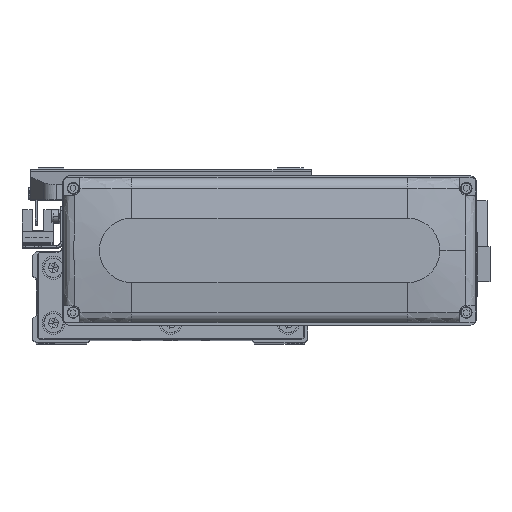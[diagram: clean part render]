
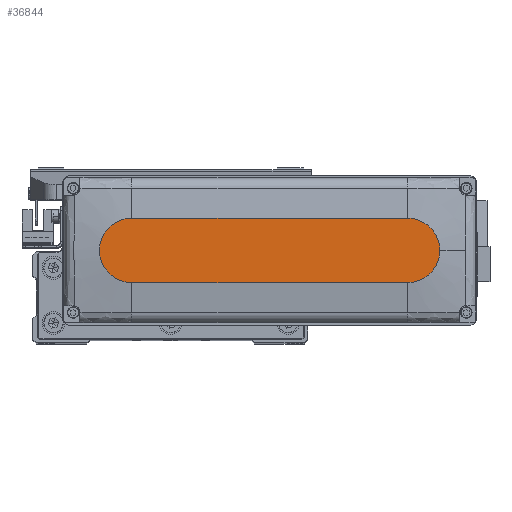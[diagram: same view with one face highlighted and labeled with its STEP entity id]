
A CAD part, top view. The second image highlights one B-rep face of the part: STEP entity #36844.
In plain terms, the highlighted planar face has unit normal (0, 0, 1).
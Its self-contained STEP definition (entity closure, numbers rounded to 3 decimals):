
#277 = CARTESIAN_POINT ( 'NONE',  ( 60., 14., 28.5 ) ) ;
#2139 = EDGE_CURVE ( 'NONE', #31493, #35377, #46733, .T. ) ;
#2382 = DIRECTION ( 'NONE',  ( 1., 0., 0. ) ) ;
#3710 = CARTESIAN_POINT ( 'NONE',  ( -60., 14., 28.5 ) ) ;
#4881 = DIRECTION ( 'NONE',  ( 1., 0., 0. ) ) ;
#6223 = PLANE ( 'NONE',  #38604 ) ;
#6719 = DIRECTION ( 'NONE',  ( 1., 0., 0. ) ) ;
#7327 = CIRCLE ( 'NONE', #48693, 14. ) ;
#7791 = ORIENTED_EDGE ( 'NONE', *, *, #25002, .T. ) ;
#8849 = DIRECTION ( 'NONE',  ( -1., 0., 0. ) ) ;
#10587 = CARTESIAN_POINT ( 'NONE',  ( 60., 0., 28.5 ) ) ;
#11674 = ORIENTED_EDGE ( 'NONE', *, *, #2139, .T. ) ;
#12229 = CARTESIAN_POINT ( 'NONE',  ( -60., 0., 28.5 ) ) ;
#14474 = VERTEX_POINT ( 'NONE', #277 ) ;
#15209 = ORIENTED_EDGE ( 'NONE', *, *, #19217, .T. ) ;
#16484 = EDGE_LOOP ( 'NONE', ( #32681, #21231, #11674, #7791, #15209 ) ) ;
#18005 = LINE ( 'NONE', #33193, #22291 ) ;
#19217 = EDGE_CURVE ( 'NONE', #42162, #14474, #23709, .T. ) ;
#20855 = AXIS2_PLACEMENT_3D ( 'NONE', #10587, #21579, #2382 ) ;
#21231 = ORIENTED_EDGE ( 'NONE', *, *, #23906, .T. ) ;
#21511 = VECTOR ( 'NONE', #4881, 1000. ) ;
#21579 = DIRECTION ( 'NONE',  ( 0., 0., 1. ) ) ;
#22291 = VECTOR ( 'NONE', #8849, 1000. ) ;
#23709 = CIRCLE ( 'NONE', #35618, 14. ) ;
#23906 = EDGE_CURVE ( 'NONE', #45953, #31493, #7327, .T. ) ;
#24845 = CIRCLE ( 'NONE', #20855, 14. ) ;
#25002 = EDGE_CURVE ( 'NONE', #35377, #42162, #24845, .T. ) ;
#27194 = DIRECTION ( 'NONE',  ( 1., 0., 0. ) ) ;
#28293 = CARTESIAN_POINT ( 'NONE',  ( 74., 0., 28.5 ) ) ;
#29500 = EDGE_CURVE ( 'NONE', #14474, #45953, #18005, .T. ) ;
#29880 = DIRECTION ( 'NONE',  ( 0., 0., 1. ) ) ;
#31493 = VERTEX_POINT ( 'NONE', #38182 ) ;
#32134 = CARTESIAN_POINT ( 'NONE',  ( 60., -14., 28.5 ) ) ;
#32681 = ORIENTED_EDGE ( 'NONE', *, *, #29500, .T. ) ;
#33193 = CARTESIAN_POINT ( 'NONE',  ( -60., 14., 28.5 ) ) ;
#33329 = DIRECTION ( 'NONE',  ( 0., 0., 1. ) ) ;
#35377 = VERTEX_POINT ( 'NONE', #32134 ) ;
#35618 = AXIS2_PLACEMENT_3D ( 'NONE', #40559, #33329, #47790 ) ;
#36630 = FACE_OUTER_BOUND ( 'NONE', #16484, .T. ) ;
#36844 = ADVANCED_FACE ( 'NONE', ( #36630 ), #6223, .T. ) ;
#38182 = CARTESIAN_POINT ( 'NONE',  ( -60., -14., 28.5 ) ) ;
#38604 = AXIS2_PLACEMENT_3D ( 'NONE', #44322, #29880, #6719 ) ;
#39510 = CARTESIAN_POINT ( 'NONE',  ( -60., -14., 28.5 ) ) ;
#40559 = CARTESIAN_POINT ( 'NONE',  ( 60., 0., 28.5 ) ) ;
#42162 = VERTEX_POINT ( 'NONE', #28293 ) ;
#44322 = CARTESIAN_POINT ( 'NONE',  ( 0., 0., 28.5 ) ) ;
#45953 = VERTEX_POINT ( 'NONE', #3710 ) ;
#46116 = DIRECTION ( 'NONE',  ( 0., 0., 1. ) ) ;
#46733 = LINE ( 'NONE', #39510, #21511 ) ;
#47790 = DIRECTION ( 'NONE',  ( 1., 0., 0. ) ) ;
#48693 = AXIS2_PLACEMENT_3D ( 'NONE', #12229, #46116, #27194 ) ;
